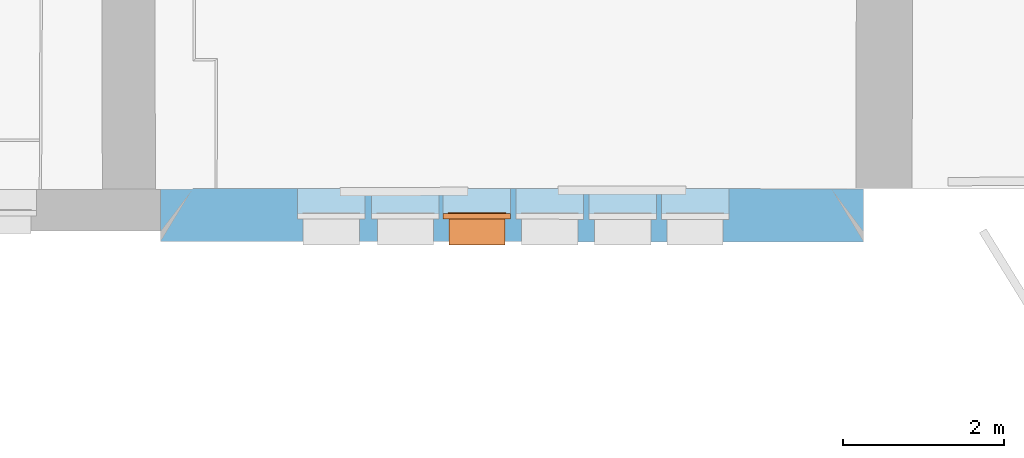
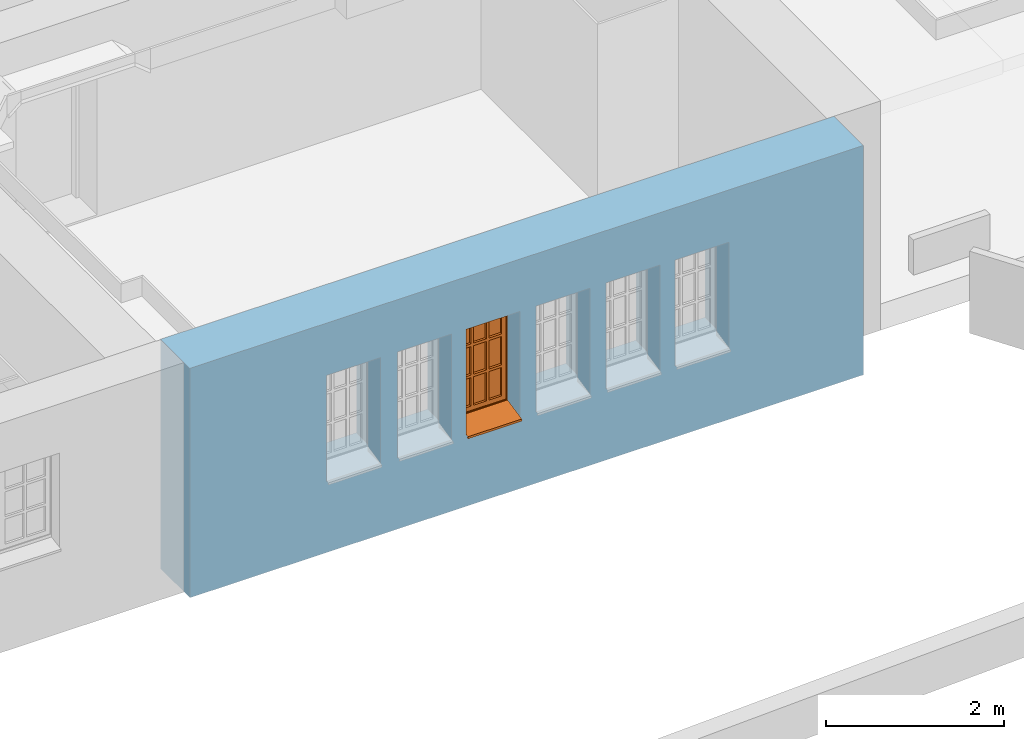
# One storey, part 83 of 196: 1 proxy, 6 openings, plus 1 element that does not belong to this part.
"""IFC2X3 building model written with IfcOpenShell, lengths in metres."""

from ifc_helpers import new_model, entity, si_unit, converted_unit, derived_unit, money_unit, direction, frame, origin_with_axes, origin_2d_with_axis, place, context, subcontext, project, spatial, polyline, rectangle, outline, extrude, boolean, open_shell, faceted_brep, surface_model, material, type_object, element, fill, save


model = new_model("IFC2X3")

# Units and contexts
model_context = context("Model", 3, precision=1e-05, world=origin_with_axes(), true_north=direction((0.0, 1.0)))
body_context = subcontext(model_context, "Body", "Model", "MODEL_VIEW")
ifc_project = project(units=[si_unit("LENGTHUNIT", "METRE"), si_unit("AREAUNIT", "SQUARE_METRE"), si_unit("VOLUMEUNIT", "CUBIC_METRE"), converted_unit("PLANEANGLEUNIT", "DEGREE", entity("IfcPlaneAngleMeasure", 0.0174532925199), si_unit("PLANEANGLEUNIT", "RADIAN"), dimensions=[0, 0, 0, 0, 0, 0, 0]), money_unit("EUR"), converted_unit("TIMEUNIT", "Year", entity("IfcTimeMeasure", 31556926.0), si_unit("TIMEUNIT", "SECOND"), dimensions=[0, 0, 1, 0, 0, 0, 0]), si_unit("MASSUNIT", "GRAM", prefix="KILO"), si_unit("THERMODYNAMICTEMPERATUREUNIT", "DEGREE_CELSIUS"), si_unit("LUMINOUSINTENSITYUNIT", "LUMEN"), si_unit("ENERGYUNIT", "JOULE", prefix="MEGA"), derived_unit("THERMALCONDUCTANCEUNIT", [(si_unit("POWERUNIT", "WATT"), 1), (si_unit("LENGTHUNIT", "METRE"), -1), (si_unit("THERMODYNAMICTEMPERATUREUNIT", "KELVIN"), -1)]), derived_unit("SPECIFICHEATCAPACITYUNIT", [(si_unit("ENERGYUNIT", "JOULE"), 1), (si_unit("MASSUNIT", "GRAM", prefix="KILO"), -1), (si_unit("THERMODYNAMICTEMPERATUREUNIT", "KELVIN"), -1)]), derived_unit("MASSDENSITYUNIT", [(si_unit("MASSUNIT", "GRAM", prefix="KILO"), 1), (si_unit("VOLUMEUNIT", "CUBIC_METRE"), -1)])], contexts=[model_context])

# Site, building, storey
site_placement = place(None, origin_with_axes())
site = spatial("IfcSite", under=ifc_project, at=site_placement, Name="Gelände", CompositionType="ELEMENT")
building_placement = place(site_placement, origin_with_axes())
building = spatial("IfcBuilding", under=site, at=building_placement, Name="Gebäude", CompositionType="ELEMENT")
storey_placement = place(building_placement, frame((0.0, 0.0, -3.0), z_axis=(0.0, 0.0, 1.0), x_axis=(1.0, 0.0, 0.0)))
storey = spatial("IfcBuildingStorey", under=building, at=storey_placement, Name="KELLERGESCHOSS", CompositionType="ELEMENT", Elevation=-3.0)

# Wall, openings, proxy
ifc_material = material(Name="05_ALLGEMEIN - TRAGENDE BAUTEILE")
wall_type = type_object("IfcWallType", Name="05_ALLGEMEIN - TRAGENDE BAUTEILE 660", PredefinedType="ELEMENTEDWALL")
wall_placement = place(storey_placement, frame((3.68030708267, 9.80941916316, -0.36), z_axis=(0.0, 0.0, 1.0), x_axis=(0.999999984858, -0.000174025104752, 0.0)))
wall = element("IfcWall", 1, at=wall_placement, inside=storey, type_object=wall_type, material=ifc_material, Name="Wand-032", ObjectType="ELEMENTEDWALL", context=body_context, shape_type="CSG", body=[
    boolean("DIFFERENCE", extrude(outline(polyline([(0.0, 0.0), (8.74672447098, 0.0), (8.74672447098, 0.66), (0.0, 0.66), (0.0, 0.0)])), origin_with_axes(), (0.0, 0.0, 1.0), 3.15), faceted_brep([(8.36400803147, 0.66, 3.15), (8.36400803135, 0.66, 3.065), (8.74672447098, 0.66, 3.065), (8.74672447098, 0.66, 0.0), (0.0, 0.66, 0.0), (0.0, 0.66, 3.15), (0.396377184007, 0.651638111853, 3.15), (0.396377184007, 0.651638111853, 0.0), (8.3467354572, 0.659981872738, 0.0), (8.3467354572, 0.659981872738, 3.065), (8.74672447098, 0.0, 3.065), (8.74672447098, 0.0, 0.0), (0.0, 0.0, 0.0), (0.0, 0.0, 3.15)], [[[0, 1, 2, 3, 4, 5]], [[1, 0, 6, 7, 8, 9]], [[10, 2, 1, 9]], [[10, 11, 3, 2]], [[7, 12, 4, 3, 11, 8]], [[12, 13, 5, 4]], [[6, 0, 5, 13]], [[6, 13, 12, 7]], [[11, 10, 9, 8]]])),
])
opening_1_placement = place(wall_placement, frame((6.65087656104, 0.0, 0.977921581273), z_axis=(0.0, 0.0, 1.0), x_axis=(1.0, 0.0, 0.0)))
element("IfcOpeningElement", 2, at=opening_1_placement, cuts=wall, Name="Fenster-015", context=body_context, shape_type="SweptSolid", body=[
    extrude(rectangle(XDim=0.840207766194, YDim=1.52470991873, at=origin_2d_with_axis()), frame((0.0, 0.28, 0.762354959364), z_axis=(0.0, -1.0, 0.0), x_axis=(1.0, 0.0, 0.0)), (0.0, 0.0, -1.0), 1.04),
    extrude(rectangle(XDim=0.700207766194, YDim=1.45470991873, at=origin_2d_with_axis()), frame((0.0, 0.28, 0.727354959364), z_axis=(0.0, 1.0, 0.0), x_axis=(1.0, 0.0, 0.0)), (0.0, 0.0, -1.0), 0.94),
])
opening_2_placement = place(wall_placement, frame((5.75227144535, 0.0, 0.977921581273), z_axis=(0.0, 0.0, 1.0), x_axis=(1.0, 0.0, 0.0)))
element("IfcOpeningElement", 3, at=opening_2_placement, cuts=wall, Name="Fenster-015", context=body_context, shape_type="SweptSolid", body=[
    extrude(rectangle(XDim=0.840207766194, YDim=1.52470991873, at=origin_2d_with_axis()), frame((0.0, 0.28, 0.762354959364), z_axis=(0.0, -1.0, 0.0), x_axis=(1.0, 0.0, 0.0)), (0.0, 0.0, -1.0), 1.04),
    extrude(rectangle(XDim=0.700207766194, YDim=1.45470991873, at=origin_2d_with_axis()), frame((0.0, 0.28, 0.727354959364), z_axis=(0.0, 1.0, 0.0), x_axis=(1.0, 0.0, 0.0)), (0.0, 0.0, -1.0), 0.94),
])
opening_3_placement = place(wall_placement, frame((2.12414616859, 0.0, 0.977921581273), z_axis=(0.0, 0.0, 1.0), x_axis=(1.0, 0.0, 0.0)))
element("IfcOpeningElement", 4, at=opening_3_placement, cuts=wall, Name="Fenster-015", context=body_context, shape_type="SweptSolid", body=[
    extrude(rectangle(XDim=0.840207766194, YDim=1.52470991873, at=origin_2d_with_axis()), frame((0.0, 0.28, 0.762354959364), z_axis=(0.0, -1.0, 0.0), x_axis=(1.0, 0.0, 0.0)), (0.0, 0.0, -1.0), 1.04),
    extrude(rectangle(XDim=0.700207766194, YDim=1.45470991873, at=origin_2d_with_axis()), frame((0.0, 0.28, 0.727354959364), z_axis=(0.0, 1.0, 0.0), x_axis=(1.0, 0.0, 0.0)), (0.0, 0.0, -1.0), 0.94),
])
opening_4_placement = place(wall_placement, frame((3.04781651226, 0.0, 0.977921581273), z_axis=(0.0, 0.0, 1.0), x_axis=(1.0, 0.0, 0.0)))
element("IfcOpeningElement", 5, at=opening_4_placement, cuts=wall, Name="Fenster-015", context=body_context, shape_type="SweptSolid", body=[
    extrude(rectangle(XDim=0.840207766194, YDim=1.52470991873, at=origin_2d_with_axis()), frame((0.0, 0.28, 0.762354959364), z_axis=(0.0, -1.0, 0.0), x_axis=(1.0, 0.0, 0.0)), (0.0, 0.0, -1.0), 1.04),
    extrude(rectangle(XDim=0.700207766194, YDim=1.45470991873, at=origin_2d_with_axis()), frame((0.0, 0.28, 0.727354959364), z_axis=(0.0, 1.0, 0.0), x_axis=(1.0, 0.0, 0.0)), (0.0, 0.0, -1.0), 0.94),
])
opening_5_placement = place(wall_placement, frame((3.9368208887, 0.0, 0.977921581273), z_axis=(0.0, 0.0, 1.0), x_axis=(1.0, 0.0, 0.0)))
opening_5 = element("IfcOpeningElement", 6, at=opening_5_placement, cuts=wall, Name="Fenster-015", context=body_context, shape_type="SweptSolid", body=[
    extrude(rectangle(XDim=0.840207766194, YDim=1.52470991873, at=origin_2d_with_axis()), frame((0.0, 0.28, 0.762354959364), z_axis=(0.0, -1.0, 0.0), x_axis=(1.0, 0.0, 0.0)), (0.0, 0.0, -1.0), 1.04),
    extrude(rectangle(XDim=0.700207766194, YDim=1.45470991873, at=origin_2d_with_axis()), frame((0.0, 0.28, 0.727354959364), z_axis=(0.0, 1.0, 0.0), x_axis=(1.0, 0.0, 0.0)), (0.0, 0.0, -1.0), 0.94),
])
opening_6_placement = place(wall_placement, frame((4.8431156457, 0.0, 0.977921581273), z_axis=(0.0, 0.0, 1.0), x_axis=(1.0, 0.0, 0.0)))
element("IfcOpeningElement", 7, at=opening_6_placement, cuts=wall, Name="Fenster-015", context=body_context, shape_type="SweptSolid", body=[
    extrude(rectangle(XDim=0.840207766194, YDim=1.52470991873, at=origin_2d_with_axis()), frame((0.0, 0.28, 0.762354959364), z_axis=(0.0, -1.0, 0.0), x_axis=(1.0, 0.0, 0.0)), (0.0, 0.0, -1.0), 1.04),
    extrude(rectangle(XDim=0.700207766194, YDim=1.45470991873, at=origin_2d_with_axis()), frame((0.0, 0.28, 0.727354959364), z_axis=(0.0, 1.0, 0.0), x_axis=(1.0, 0.0, 0.0)), (0.0, 0.0, -1.0), 0.94),
])
building_element_proxy_type = type_object("IfcBuildingElementProxyType", Name="1-Flügelfenster 25", PredefinedType="NOTDEFINED")
proxy_placement = place(opening_5_placement, frame((-0.420103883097, 0.0, 0.0), z_axis=(0.0, 0.0, 1.0), x_axis=(1.0, 0.0, 0.0)))
proxy = element("IfcBuildingElementProxy", 8, at=proxy_placement, inside=storey, type_object=building_element_proxy_type, Name="Fenster-015", context=body_context, shape_type="SurfaceModel", body=[
    surface_model("IfcShellBasedSurfaceModel", [(0.07, 0.279, 0.08), (0.07, 0.279, 0.07), (0.770207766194, 0.279, 0.07), (0.770207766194, 0.279, 0.08), (0.07, -0.04, 0.00142857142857), (0.770207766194, -0.04, 0.00142857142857), (0.07, -0.04, -0.0285714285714), (0.770207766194, -0.04, -0.0285714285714), (0.07, -0.025, -0.0135714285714), (0.770207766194, -0.025, -0.0135714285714)], [open_shell([[[0, 1, 2, 3]], [[1, 4, 5, 2]], [[4, 6, 7, 5]], [[6, 8, 9, 7]]])]),
    faceted_brep([(0.07, 0.28, 0.0689771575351), (0.07, 0.0, 0.00878906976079), (0.770207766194, 0.0, 0.00878906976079), (0.770207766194, 0.28, 0.0689771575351), (0.07, 0.28, 0.0), (0.07, 0.0, 0.0), (0.770207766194, 0.0, 0.0), (0.770207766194, 0.28, 0.0)], [[[0, 1, 2, 3]], [[0, 4, 5, 1]], [[1, 5, 6, 2]], [[3, 2, 6, 7]], [[4, 0, 3, 7]], [[5, 4, 7, 6]]]),
    faceted_brep([(0.0, 0.28, 0.0), (0.0, 0.35, 0.0), (0.08, 0.35, 0.08), (0.08, 0.28, 0.08), (0.0, 0.28, 1.52470991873), (0.0, 0.35, 1.52470991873), (0.08, 0.35, 1.44470991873), (0.08, 0.28, 1.44470991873)], [[[0, 1, 2, 3]], [[4, 5, 1, 0]], [[1, 5, 6, 2]], [[3, 2, 6, 7]], [[0, 3, 7, 4]], [[7, 6, 5, 4]]]),
    faceted_brep([(0.840207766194, 0.28, 0.0), (0.840207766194, 0.35, 0.0), (0.840207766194, 0.35, 1.52470991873), (0.840207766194, 0.28, 1.52470991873), (0.760207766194, 0.28, 0.08), (0.760207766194, 0.35, 0.08), (0.760207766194, 0.35, 1.44470991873), (0.760207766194, 0.28, 1.44470991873)], [[[0, 1, 2, 3]], [[4, 5, 1, 0]], [[1, 5, 6, 2]], [[3, 2, 6, 7]], [[0, 3, 7, 4]], [[7, 6, 5, 4]]]),
    faceted_brep([(0.0, 0.28, 0.0), (0.0, 0.35, 0.0), (0.840207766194, 0.35, 0.0), (0.840207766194, 0.28, 0.0), (0.08, 0.28, 0.08), (0.08, 0.35, 0.08), (0.420103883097, 0.35, 0.08), (0.760207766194, 0.35, 0.08), (0.760207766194, 0.28, 0.08), (0.420103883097, 0.28, 0.08)], [[[0, 1, 2, 3]], [[4, 5, 1, 0]], [[1, 5, 6, 7, 2]], [[3, 2, 7, 8]], [[0, 3, 8, 9, 4]], [[9, 6, 5, 4]], [[8, 7, 6, 9]]]),
    faceted_brep([(0.0, 0.28, 1.52470991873), (0.0, 0.35, 1.52470991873), (0.08, 0.35, 1.44470991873), (0.08, 0.28, 1.44470991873), (0.840207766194, 0.28, 1.52470991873), (0.840207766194, 0.35, 1.52470991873), (0.760207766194, 0.35, 1.44470991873), (0.420103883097, 0.35, 1.44470991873), (0.420103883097, 0.28, 1.44470991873), (0.760207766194, 0.28, 1.44470991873)], [[[0, 1, 2, 3]], [[4, 5, 1, 0]], [[1, 5, 6, 7, 2]], [[3, 2, 7, 8]], [[0, 3, 8, 9, 4]], [[9, 6, 5, 4]], [[8, 7, 6, 9]]]),
    faceted_brep([(0.06, 0.35, 0.06), (0.06, 0.363, 0.06), (0.14, 0.363, 0.14), (0.14, 0.35, 0.14), (0.06, 0.35, 1.46470991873), (0.06, 0.363, 1.46470991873), (0.14, 0.363, 1.38470991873), (0.14, 0.35, 1.38470991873)], [[[0, 1, 2, 3]], [[4, 5, 1, 0]], [[1, 5, 6, 2]], [[3, 2, 6, 7]], [[0, 3, 7, 4]], [[7, 6, 5, 4]]]),
    faceted_brep([(0.780207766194, 0.35, 0.06), (0.700207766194, 0.35, 0.14), (0.700207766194, 0.363, 0.14), (0.780207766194, 0.363, 0.06), (0.780207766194, 0.35, 1.46470991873), (0.700207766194, 0.35, 1.38470991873), (0.700207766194, 0.363, 1.38470991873), (0.780207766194, 0.363, 1.46470991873)], [[[0, 1, 2, 3]], [[0, 4, 5, 1]], [[1, 5, 6, 2]], [[3, 2, 6, 7]], [[4, 0, 3, 7]], [[5, 4, 7, 6]]]),
    faceted_brep([(0.06, 0.35, 0.06), (0.06, 0.363, 0.06), (0.780207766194, 0.363, 0.06), (0.780207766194, 0.35, 0.06), (0.14, 0.35, 0.14), (0.14, 0.363, 0.14), (0.700207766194, 0.363, 0.14), (0.700207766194, 0.35, 0.14)], [[[0, 1, 2, 3]], [[4, 5, 1, 0]], [[1, 5, 6, 2]], [[3, 2, 6, 7]], [[0, 3, 7, 4]], [[7, 6, 5, 4]]]),
    faceted_brep([(0.06, 0.35, 1.46470991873), (0.780207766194, 0.35, 1.46470991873), (0.780207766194, 0.363, 1.46470991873), (0.06, 0.363, 1.46470991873), (0.14, 0.35, 1.38470991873), (0.700207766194, 0.35, 1.38470991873), (0.700207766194, 0.363, 1.38470991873), (0.14, 0.363, 1.38470991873)], [[[0, 1, 2, 3]], [[0, 4, 5, 1]], [[1, 5, 6, 2]], [[3, 2, 6, 7]], [[4, 0, 3, 7]], [[5, 4, 7, 6]]]),
    faceted_brep([(0.08, 0.293, 0.08), (0.08, 0.35, 0.08), (0.14, 0.35, 0.14), (0.14, 0.293, 0.14), (0.08, 0.293, 1.44470991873), (0.08, 0.35, 1.44470991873), (0.14, 0.35, 1.38470991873), (0.14, 0.293, 1.38470991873)], [[[0, 1, 2, 3]], [[4, 5, 1, 0]], [[1, 5, 6, 2]], [[3, 2, 6, 7]], [[0, 3, 7, 4]], [[7, 6, 5, 4]]]),
    faceted_brep([(0.760207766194, 0.293, 0.08), (0.700207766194, 0.293, 0.14), (0.700207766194, 0.35, 0.14), (0.760207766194, 0.35, 0.08), (0.760207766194, 0.293, 1.44470991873), (0.700207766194, 0.293, 1.38470991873), (0.700207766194, 0.35, 1.38470991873), (0.760207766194, 0.35, 1.44470991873)], [[[0, 1, 2, 3]], [[0, 4, 5, 1]], [[1, 5, 6, 2]], [[3, 2, 6, 7]], [[4, 0, 3, 7]], [[5, 4, 7, 6]]]),
    faceted_brep([(0.08, 0.293, 0.08), (0.08, 0.35, 0.08), (0.760207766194, 0.35, 0.08), (0.760207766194, 0.293, 0.08), (0.14, 0.293, 0.14), (0.14, 0.35, 0.14), (0.700207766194, 0.35, 0.14), (0.700207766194, 0.293, 0.14)], [[[0, 1, 2, 3]], [[4, 5, 1, 0]], [[1, 5, 6, 2]], [[3, 2, 6, 7]], [[0, 3, 7, 4]], [[7, 6, 5, 4]]]),
    faceted_brep([(0.08, 0.293, 1.44470991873), (0.760207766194, 0.293, 1.44470991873), (0.760207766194, 0.35, 1.44470991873), (0.08, 0.35, 1.44470991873), (0.14, 0.293, 1.38470991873), (0.700207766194, 0.293, 1.38470991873), (0.700207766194, 0.35, 1.38470991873), (0.14, 0.35, 1.38470991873)], [[[0, 1, 2, 3]], [[0, 4, 5, 1]], [[1, 5, 6, 2]], [[3, 2, 6, 7]], [[4, 0, 3, 7]], [[5, 4, 7, 6]]]),
    faceted_brep([(0.303402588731, 0.293, 0.14), (0.303402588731, 0.328, 0.14), (0.338402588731, 0.328, 0.14), (0.338402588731, 0.293, 0.14), (0.303402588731, 0.293, 1.38470991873), (0.303402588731, 0.328, 1.38470991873), (0.338402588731, 0.328, 1.38470991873), (0.338402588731, 0.293, 1.38470991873)], [[[0, 1, 2, 3]], [[4, 5, 1, 0]], [[1, 5, 6, 2]], [[3, 2, 6, 7]], [[0, 3, 7, 4]], [[7, 6, 5, 4]]]),
    faceted_brep([(0.303402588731, 0.328, 0.14), (0.303402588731, 0.363, 0.14), (0.338402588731, 0.363, 0.14), (0.338402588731, 0.328, 0.14), (0.303402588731, 0.328, 1.38470991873), (0.303402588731, 0.363, 1.38470991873), (0.338402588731, 0.363, 1.38470991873), (0.338402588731, 0.328, 1.38470991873)], [[[0, 1, 2, 3]], [[4, 5, 1, 0]], [[1, 5, 6, 2]], [[3, 2, 6, 7]], [[0, 3, 7, 4]], [[7, 6, 5, 4]]]),
    faceted_brep([(0.501805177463, 0.293, 0.14), (0.501805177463, 0.328, 0.14), (0.536805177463, 0.328, 0.14), (0.536805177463, 0.293, 0.14), (0.501805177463, 0.293, 1.38470991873), (0.501805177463, 0.328, 1.38470991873), (0.536805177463, 0.328, 1.38470991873), (0.536805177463, 0.293, 1.38470991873)], [[[0, 1, 2, 3]], [[4, 5, 1, 0]], [[1, 5, 6, 2]], [[3, 2, 6, 7]], [[0, 3, 7, 4]], [[7, 6, 5, 4]]]),
    faceted_brep([(0.501805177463, 0.328, 0.14), (0.501805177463, 0.363, 0.14), (0.536805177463, 0.363, 0.14), (0.536805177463, 0.328, 0.14), (0.501805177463, 0.328, 1.38470991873), (0.501805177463, 0.363, 1.38470991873), (0.536805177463, 0.363, 1.38470991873), (0.536805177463, 0.328, 1.38470991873)], [[[0, 1, 2, 3]], [[4, 5, 1, 0]], [[1, 5, 6, 2]], [[3, 2, 6, 7]], [[0, 3, 7, 4]], [[7, 6, 5, 4]]]),
    faceted_brep([(0.501805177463, 0.293, 0.531569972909), (0.501805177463, 0.293, 0.566569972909), (0.338402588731, 0.293, 0.566569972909), (0.338402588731, 0.293, 0.531569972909), (0.501805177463, 0.328, 0.566569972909), (0.501805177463, 0.328, 0.531569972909), (0.338402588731, 0.328, 0.566569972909), (0.338402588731, 0.328, 0.531569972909)], [[[0, 1, 2, 3]], [[4, 1, 0, 5]], [[1, 4, 6, 2]], [[2, 6, 7, 3]], [[5, 0, 3, 7]], [[4, 5, 7, 6]]]),
    faceted_brep([(0.14, 0.293, 0.566569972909), (0.14, 0.293, 0.531569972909), (0.303402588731, 0.293, 0.531569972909), (0.303402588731, 0.293, 0.566569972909), (0.14, 0.328, 0.566569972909), (0.14, 0.328, 0.531569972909), (0.303402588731, 0.328, 0.531569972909), (0.303402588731, 0.328, 0.566569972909)], [[[0, 1, 2, 3]], [[1, 0, 4, 5]], [[1, 5, 6, 2]], [[2, 6, 7, 3]], [[4, 0, 3, 7]], [[5, 4, 7, 6]]]),
    faceted_brep([(0.536805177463, 0.328, 0.566569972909), (0.536805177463, 0.293, 0.566569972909), (0.700207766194, 0.293, 0.566569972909), (0.700207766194, 0.328, 0.566569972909), (0.536805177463, 0.293, 0.531569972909), (0.536805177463, 0.328, 0.531569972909), (0.700207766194, 0.293, 0.531569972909), (0.700207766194, 0.328, 0.531569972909)], [[[0, 1, 2, 3]], [[4, 1, 0, 5]], [[1, 4, 6, 2]], [[3, 2, 6, 7]], [[5, 0, 3, 7]], [[4, 5, 7, 6]]]),
    faceted_brep([(0.501805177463, 0.328, 0.531569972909), (0.501805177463, 0.328, 0.566569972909), (0.338402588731, 0.328, 0.566569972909), (0.338402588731, 0.328, 0.531569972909), (0.501805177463, 0.363, 0.566569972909), (0.501805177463, 0.363, 0.531569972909), (0.338402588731, 0.363, 0.566569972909), (0.338402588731, 0.363, 0.531569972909)], [[[0, 1, 2, 3]], [[4, 1, 0, 5]], [[1, 4, 6, 2]], [[2, 6, 7, 3]], [[5, 0, 3, 7]], [[4, 5, 7, 6]]]),
    faceted_brep([(0.14, 0.328, 0.566569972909), (0.14, 0.328, 0.531569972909), (0.303402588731, 0.328, 0.531569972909), (0.303402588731, 0.328, 0.566569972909), (0.14, 0.363, 0.566569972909), (0.14, 0.363, 0.531569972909), (0.303402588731, 0.363, 0.531569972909), (0.303402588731, 0.363, 0.566569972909)], [[[0, 1, 2, 3]], [[1, 0, 4, 5]], [[1, 5, 6, 2]], [[2, 6, 7, 3]], [[4, 0, 3, 7]], [[5, 4, 7, 6]]]),
    faceted_brep([(0.536805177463, 0.363, 0.566569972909), (0.536805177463, 0.328, 0.566569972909), (0.700207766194, 0.328, 0.566569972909), (0.700207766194, 0.363, 0.566569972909), (0.536805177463, 0.328, 0.531569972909), (0.536805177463, 0.363, 0.531569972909), (0.700207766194, 0.328, 0.531569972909), (0.700207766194, 0.363, 0.531569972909)], [[[0, 1, 2, 3]], [[4, 1, 0, 5]], [[1, 4, 6, 2]], [[3, 2, 6, 7]], [[5, 0, 3, 7]], [[4, 5, 7, 6]]]),
    faceted_brep([(0.501805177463, 0.293, 0.958139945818), (0.501805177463, 0.293, 0.993139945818), (0.338402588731, 0.293, 0.993139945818), (0.338402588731, 0.293, 0.958139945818), (0.501805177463, 0.328, 0.993139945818), (0.501805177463, 0.328, 0.958139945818), (0.338402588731, 0.328, 0.993139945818), (0.338402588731, 0.328, 0.958139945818)], [[[0, 1, 2, 3]], [[4, 1, 0, 5]], [[1, 4, 6, 2]], [[2, 6, 7, 3]], [[5, 0, 3, 7]], [[4, 5, 7, 6]]]),
    faceted_brep([(0.14, 0.293, 0.993139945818), (0.14, 0.293, 0.958139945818), (0.303402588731, 0.293, 0.958139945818), (0.303402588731, 0.293, 0.993139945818), (0.14, 0.328, 0.993139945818), (0.14, 0.328, 0.958139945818), (0.303402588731, 0.328, 0.958139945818), (0.303402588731, 0.328, 0.993139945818)], [[[0, 1, 2, 3]], [[1, 0, 4, 5]], [[1, 5, 6, 2]], [[2, 6, 7, 3]], [[4, 0, 3, 7]], [[5, 4, 7, 6]]]),
    faceted_brep([(0.536805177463, 0.328, 0.993139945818), (0.536805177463, 0.293, 0.993139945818), (0.700207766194, 0.293, 0.993139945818), (0.700207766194, 0.328, 0.993139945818), (0.536805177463, 0.293, 0.958139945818), (0.536805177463, 0.328, 0.958139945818), (0.700207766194, 0.293, 0.958139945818), (0.700207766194, 0.328, 0.958139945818)], [[[0, 1, 2, 3]], [[4, 1, 0, 5]], [[1, 4, 6, 2]], [[3, 2, 6, 7]], [[5, 0, 3, 7]], [[4, 5, 7, 6]]]),
    faceted_brep([(0.501805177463, 0.328, 0.958139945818), (0.501805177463, 0.328, 0.993139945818), (0.338402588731, 0.328, 0.993139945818), (0.338402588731, 0.328, 0.958139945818), (0.501805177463, 0.363, 0.993139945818), (0.501805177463, 0.363, 0.958139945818), (0.338402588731, 0.363, 0.993139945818), (0.338402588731, 0.363, 0.958139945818)], [[[0, 1, 2, 3]], [[4, 1, 0, 5]], [[1, 4, 6, 2]], [[2, 6, 7, 3]], [[5, 0, 3, 7]], [[4, 5, 7, 6]]]),
    faceted_brep([(0.14, 0.328, 0.993139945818), (0.14, 0.328, 0.958139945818), (0.303402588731, 0.328, 0.958139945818), (0.303402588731, 0.328, 0.993139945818), (0.14, 0.363, 0.993139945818), (0.14, 0.363, 0.958139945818), (0.303402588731, 0.363, 0.958139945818), (0.303402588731, 0.363, 0.993139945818)], [[[0, 1, 2, 3]], [[1, 0, 4, 5]], [[1, 5, 6, 2]], [[2, 6, 7, 3]], [[4, 0, 3, 7]], [[5, 4, 7, 6]]]),
    faceted_brep([(0.536805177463, 0.363, 0.993139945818), (0.536805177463, 0.328, 0.993139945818), (0.700207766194, 0.328, 0.993139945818), (0.700207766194, 0.363, 0.993139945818), (0.536805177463, 0.328, 0.958139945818), (0.536805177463, 0.363, 0.958139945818), (0.700207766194, 0.328, 0.958139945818), (0.700207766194, 0.363, 0.958139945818)], [[[0, 1, 2, 3]], [[4, 1, 0, 5]], [[1, 4, 6, 2]], [[3, 2, 6, 7]], [[5, 0, 3, 7]], [[4, 5, 7, 6]]]),
    faceted_brep([(0.303402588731, 0.333, 0.958139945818), (0.303402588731, 0.323, 0.958139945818), (0.303402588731, 0.323, 0.566569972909), (0.303402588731, 0.333, 0.566569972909), (0.14, 0.323, 0.958139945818), (0.14, 0.333, 0.958139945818), (0.14, 0.323, 0.566569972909), (0.14, 0.333, 0.566569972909)], [[[0, 1, 2, 3]], [[4, 1, 0, 5]], [[1, 4, 6, 2]], [[2, 6, 7, 3]], [[5, 0, 3, 7]], [[4, 5, 7, 6]]]),
    faceted_brep([(0.700207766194, 0.323, 0.14), (0.700207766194, 0.333, 0.14), (0.700207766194, 0.333, 0.531569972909), (0.700207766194, 0.323, 0.531569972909), (0.536805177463, 0.323, 0.14), (0.536805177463, 0.333, 0.14), (0.536805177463, 0.333, 0.531569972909), (0.536805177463, 0.323, 0.531569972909)], [[[0, 1, 2, 3]], [[0, 4, 5, 1]], [[1, 5, 6, 2]], [[2, 6, 7, 3]], [[4, 0, 3, 7]], [[5, 4, 7, 6]]]),
    faceted_brep([(0.501805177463, 0.323, 0.14), (0.501805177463, 0.333, 0.14), (0.501805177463, 0.333, 0.531569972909), (0.501805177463, 0.323, 0.531569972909), (0.338402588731, 0.333, 0.14), (0.338402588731, 0.323, 0.14), (0.338402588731, 0.333, 0.531569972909), (0.338402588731, 0.323, 0.531569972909)], [[[0, 1, 2, 3]], [[4, 1, 0, 5]], [[1, 4, 6, 2]], [[2, 6, 7, 3]], [[5, 0, 3, 7]], [[4, 5, 7, 6]]]),
    faceted_brep([(0.303402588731, 0.323, 0.14), (0.303402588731, 0.333, 0.14), (0.303402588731, 0.333, 0.531569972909), (0.303402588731, 0.323, 0.531569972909), (0.14, 0.323, 0.14), (0.14, 0.333, 0.14), (0.14, 0.333, 0.531569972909), (0.14, 0.323, 0.531569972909)], [[[0, 1, 2, 3]], [[0, 4, 5, 1]], [[1, 5, 6, 2]], [[2, 6, 7, 3]], [[4, 0, 3, 7]], [[5, 4, 7, 6]]]),
    faceted_brep([(0.700207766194, 0.333, 0.958139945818), (0.700207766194, 0.323, 0.958139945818), (0.700207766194, 0.323, 0.566569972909), (0.700207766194, 0.333, 0.566569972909), (0.536805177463, 0.323, 0.958139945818), (0.536805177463, 0.333, 0.958139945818), (0.536805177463, 0.323, 0.566569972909), (0.536805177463, 0.333, 0.566569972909)], [[[0, 1, 2, 3]], [[4, 1, 0, 5]], [[1, 4, 6, 2]], [[2, 6, 7, 3]], [[5, 0, 3, 7]], [[4, 5, 7, 6]]]),
    faceted_brep([(0.501805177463, 0.333, 0.958139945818), (0.501805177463, 0.323, 0.958139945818), (0.501805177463, 0.323, 0.566569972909), (0.501805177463, 0.333, 0.566569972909), (0.338402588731, 0.323, 0.958139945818), (0.338402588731, 0.333, 0.958139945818), (0.338402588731, 0.323, 0.566569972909), (0.338402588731, 0.333, 0.566569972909)], [[[0, 1, 2, 3]], [[4, 1, 0, 5]], [[1, 4, 6, 2]], [[2, 6, 7, 3]], [[5, 0, 3, 7]], [[4, 5, 7, 6]]]),
    faceted_brep([(0.14, 0.323, 0.993139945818), (0.303402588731, 0.323, 0.993139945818), (0.303402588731, 0.323, 1.38470991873), (0.14, 0.323, 1.38470991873), (0.303402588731, 0.333, 0.993139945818), (0.14, 0.333, 0.993139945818), (0.303402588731, 0.333, 1.38470991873), (0.14, 0.333, 1.38470991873)], [[[0, 1, 2, 3]], [[4, 1, 0, 5]], [[1, 4, 6, 2]], [[2, 6, 7, 3]], [[5, 0, 3, 7]], [[4, 5, 7, 6]]]),
    faceted_brep([(0.536805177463, 0.323, 0.993139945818), (0.700207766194, 0.323, 0.993139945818), (0.700207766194, 0.323, 1.38470991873), (0.536805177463, 0.323, 1.38470991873), (0.700207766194, 0.333, 0.993139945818), (0.536805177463, 0.333, 0.993139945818), (0.700207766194, 0.333, 1.38470991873), (0.536805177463, 0.333, 1.38470991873)], [[[0, 1, 2, 3]], [[4, 1, 0, 5]], [[1, 4, 6, 2]], [[2, 6, 7, 3]], [[5, 0, 3, 7]], [[4, 5, 7, 6]]]),
    faceted_brep([(0.338402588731, 0.323, 0.993139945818), (0.501805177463, 0.323, 0.993139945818), (0.501805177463, 0.323, 1.38470991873), (0.338402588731, 0.323, 1.38470991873), (0.501805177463, 0.333, 0.993139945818), (0.338402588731, 0.333, 0.993139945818), (0.501805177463, 0.333, 1.38470991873), (0.338402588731, 0.333, 1.38470991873)], [[[0, 1, 2, 3]], [[4, 1, 0, 5]], [[1, 4, 6, 2]], [[7, 3, 2, 6]], [[5, 0, 3, 7]], [[4, 5, 7, 6]]]),
])
fill(opening_5, proxy)

save(model, "model.ifc")
